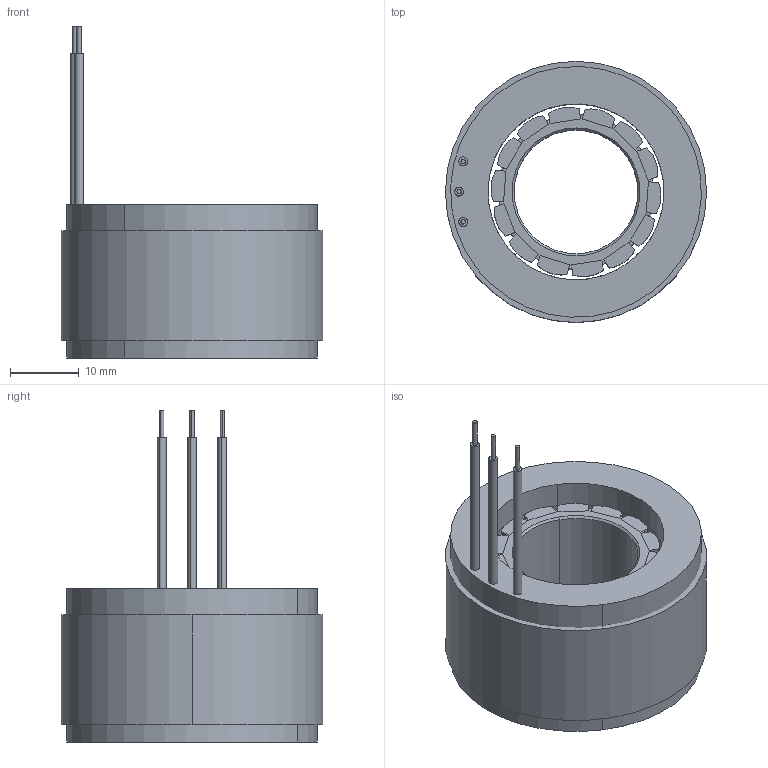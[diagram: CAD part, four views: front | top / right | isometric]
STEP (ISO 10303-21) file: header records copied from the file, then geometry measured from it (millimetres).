
FILE_DESCRIPTION (( 'STEP AP203' ), '1' );
FILE_NAME ('3822µç»ú -ÐÂ.STEP', '2025-02-15T01:54:20', ( '' ), ( '' ), 'SwSTEP 2.0', 'SolidWorks 2023', '' );
FILE_SCHEMA (( 'CONFIG_CONTROL_DESIGN' ));
Length unit declared in the file: millimetre
Products named in the file (1): 3822电机 -新
Bounding box: 38 x 38 x 48.3 mm (x, y, z)
Surface area: 12021.4 mm2 (no closed solid volume)
Topology: 0 solids, 21 shells, 104 faces, 556 edges, 468 vertices
Faces by surface type: plane 70, cylinder 30, cone 4
Entity records: 5561 total; most frequent: CARTESIAN_POINT 1129, DIRECTION 946, ORIENTED_EDGE 706, EDGE_CURVE 556, VERTEX_POINT 468, LINE 376, VECTOR 376, AXIS2_PLACEMENT_3D 285
